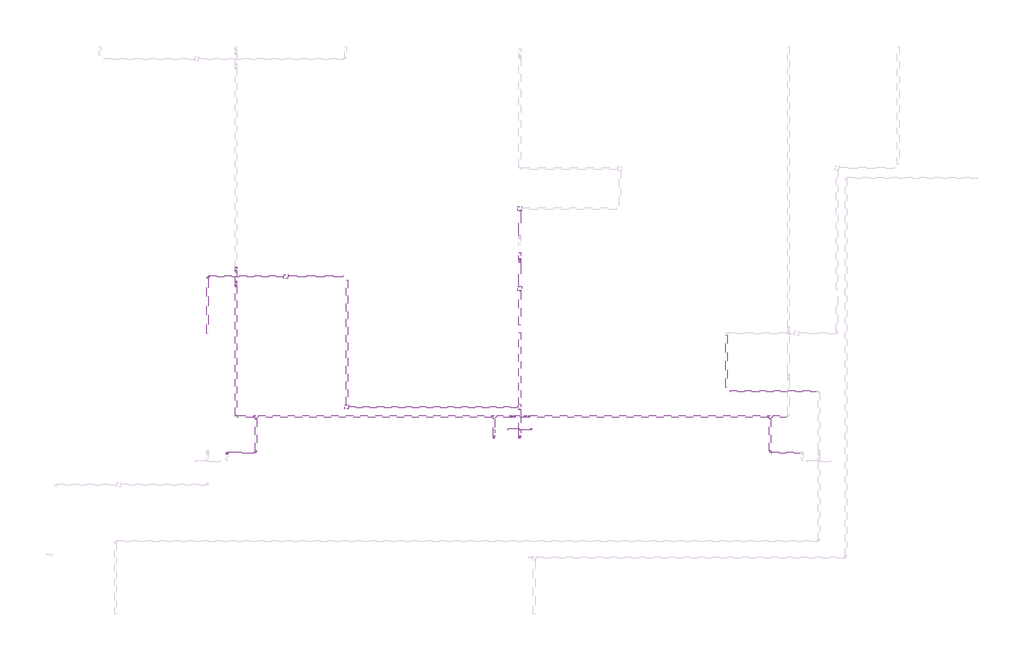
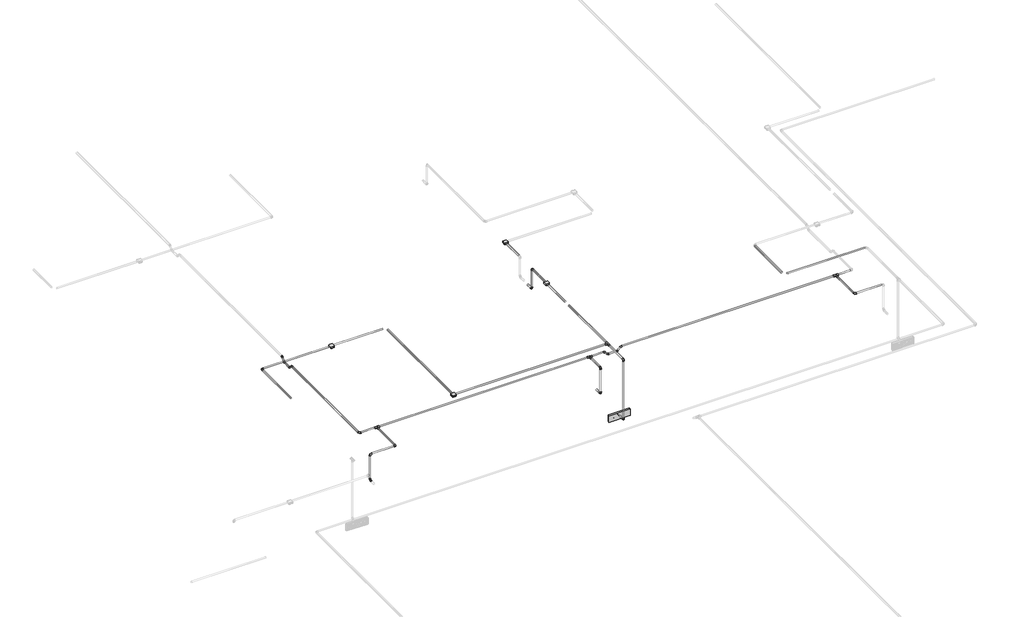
# One storey, part 11 of 40: 36 cable carrier segments, 24 cable carrier fittings, 5 alarms.
"""IFC4 building model written with IfcOpenShell, lengths in millimetres."""

from ifc_helpers import new_model, si_unit, point, frame, frame_2d, origin, place, context, project, spatial, circle_curve, trimmed, segment, composite_curve, outline, extrude, transform, mapped, element, save
from components import alarm_4b7e8fd8, alarm_a2247946, cable_carrier_fitting_69f1a801, cable_carrier_fitting_8122f9af, cable_carrier_fitting_06b5819c, cable_carrier_fitting_8fd13dfc

model = new_model("IFC4")

# Units and contexts
model_context = context("Model", 3, world=origin())
ifc_project = project(units=[si_unit("LENGTHUNIT", "METRE", prefix="MILLI")], contexts=[model_context])

# Site, building, storey
site = spatial("IfcSite", under=ifc_project)
building = spatial("IfcBuilding", under=site)
storey = spatial("IfcBuildingStorey", under=building, Name="1 этаж", Elevation=0.0)

# Alarms
placement = place(None, origin())
alarm_shape = alarm_4b7e8fd8(model_context)
element("IfcAlarm", 1, ObjectType="RBZ_Оповещатель_Световой_Рубеж_ОПОП1-R3(грань) : ОПОП 1-R3 \"Выход\"", at=placement, inside=storey, context=model_context, shape_type="MappedRepresentation", body=[
    mapped(alarm_shape, transform((12667.6759979, -7115.3629895, 2300.0), x_axis=(-1.0, 0.0, 0.0), y_axis=(0.0, 0.0, 1.0), z_axis=(0.0, 1.0, 0.0))),
])
alarm_2_shape = alarm_a2247946(model_context)
element("IfcAlarm", 2, ObjectType="RBZ_ИзоляторШлейфа_Рубеж_ИЗ-1_прот.R3(плоскость) : ИЗ-1 прот.R3", at=placement, inside=storey, context=model_context, shape_type="MappedRepresentation", body=[
    mapped(alarm_2_shape, transform((9747.6759979, -5195.3629895, 3200.0394564), x_axis=(1.0, 0.0, 0.0), y_axis=(0.0, 1.0, 0.0), z_axis=(0.0, 0.0, 1.0))),
])
element("IfcAlarm", 3, ObjectType="RBZ_ИзоляторШлейфа_Рубеж_ИЗ-1_прот.R3(плоскость) : ИЗ-1 прот.R3", at=placement, inside=storey, context=model_context, shape_type="MappedRepresentation", body=[
    mapped(alarm_2_shape, transform((10507.6759979, -6827.8629895, 3200.0394564), x_axis=(1.0, 0.0, 0.0), y_axis=(0.0, 1.0, 0.0), z_axis=(0.0, 0.0, 1.0))),
])
element("IfcAlarm", 4, ObjectType="RBZ_ИзоляторШлейфа_Рубеж_ИЗ-1_прот.R3(плоскость) : ИЗ-1 прот.R3", at=placement, inside=storey, context=model_context, shape_type="MappedRepresentation", body=[
    mapped(alarm_2_shape, transform((12667.6759979, -5347.8629895, 3200.05), x_axis=(1.0, 0.0, 0.0), y_axis=(0.0, 1.0, 0.0), z_axis=(0.0, 0.0, 1.0))),
])
element("IfcAlarm", 5, ObjectType="RBZ_ИзоляторШлейфа_Рубеж_ИЗ-1_прот.R3(плоскость) : ИЗ-1 прот.R3", at=placement, inside=storey, context=model_context, shape_type="MappedRepresentation", body=[
    mapped(alarm_2_shape, transform((12667.6759979, -4347.8629895, 3200.7725545), x_axis=(1.0, 0.0, 0.0), y_axis=(0.0, 1.0, 0.0), z_axis=(0.0, 0.0, 1.0))),
])

# Cable carrier fittings
cable_carrier_fitting_shape = cable_carrier_fitting_69f1a801(model_context)
element("IfcCableCarrierFitting", 6, ObjectType="ADSK_Поворот_Минимальный размер : Неспецифицируемый", at=placement, inside=storey, context=model_context, shape_type="MappedRepresentation", body=[
    mapped(cable_carrier_fitting_shape, transform((8767.6759751, -5195.3629895, 3189.2546578), x_axis=(-0.9999999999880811, 0.0, 4.882407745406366e-06), y_axis=(-2.0036442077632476e-10, -0.99999999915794, -4.103803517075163e-05), z_axis=(4.882407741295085e-06, -4.103803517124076e-05, 0.999999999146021))),
])
element("IfcCableCarrierFitting", 7, ObjectType="ADSK_Поворот_Минимальный размер : Неспецифицируемый", at=placement, inside=storey, context=model_context, shape_type="MappedRepresentation", body=[
    mapped(cable_carrier_fitting_shape, transform((12667.6759979, -4991.5627951, 2891.5753772), x_axis=(0.0, -1.0, 0.0), y_axis=(0.0, 0.0, 1.0), z_axis=(-1.0, 0.0, 0.0))),
])
element("IfcCableCarrierFitting", 8, ObjectType="ADSK_Поворот_Минимальный размер : Неспецифицируемый", at=placement, inside=storey, context=model_context, shape_type="MappedRepresentation", body=[
    mapped(cable_carrier_fitting_shape, transform((9012.6759979, -7398.1631839, 2797.4861504), x_axis=(0.0, 1.0, 0.0), y_axis=(0.0, 0.0, 1.0), z_axis=(1.0, 0.0, 0.0))),
])
element("IfcCableCarrierFitting", 9, ObjectType="ADSK_Поворот_Минимальный размер : Неспецифицируемый", at=placement, inside=storey, context=model_context, shape_type="MappedRepresentation", body=[
    mapped(cable_carrier_fitting_shape, transform((12347.6759979, -7212.5627951, 2797.4861504), x_axis=(0.0, -1.0, 0.0), y_axis=(0.0, 0.0, 1.0), z_axis=(-1.0, 0.0, 0.0))),
])
element("IfcCableCarrierFitting", 10, ObjectType="ADSK_Поворот_Минимальный размер : Неспецифицируемый", at=placement, inside=storey, context=model_context, shape_type="MappedRepresentation", body=[
    mapped(cable_carrier_fitting_shape, transform((12347.6759979, -7212.5627951, 3180.0), x_axis=(0.0, 0.0, 1.0), y_axis=(0.0, 1.0, 0.0), z_axis=(-1.0, 0.0, 0.0))),
])
element("IfcCableCarrierFitting", 11, ObjectType="ADSK_Поворот_Минимальный размер : Неспецифицируемый", at=placement, inside=storey, context=model_context, shape_type="MappedRepresentation", body=[
    mapped(cable_carrier_fitting_shape, transform((12667.6759979, -7212.5627951, 2300.0), x_axis=(0.0, -1.0, 0.0), y_axis=(0.0, 0.0, 1.0), z_axis=(-1.0, 0.0, 0.0))),
])
element("IfcCableCarrierFitting", 12, ObjectType="ADSK_Поворот_Минимальный размер : Неспецифицируемый", at=placement, inside=storey, context=model_context, shape_type="MappedRepresentation", body=[
    mapped(cable_carrier_fitting_shape, transform((12667.6759979, -7212.5627951, 3189.3), x_axis=(0.0, 0.0, 1.0), y_axis=(0.0, 1.0, 0.0), z_axis=(-1.0, 0.0, 0.0))),
])
element("IfcCableCarrierFitting", 13, ObjectType="ADSK_Поворот_Минимальный размер : Неспецифицируемый", at=placement, inside=storey, context=model_context, shape_type="MappedRepresentation", body=[
    mapped(cable_carrier_fitting_shape, transform((9012.6759979, -7398.1631839, 3180.0), x_axis=(0.0, 0.0, 1.0), y_axis=(1.0, 0.0, 0.0), z_axis=(0.0, 1.0, 0.0))),
])
element("IfcCableCarrierFitting", 14, ObjectType="ADSK_Поворот_Минимальный размер : Неспецифицируемый", at=placement, inside=storey, context=model_context, shape_type="MappedRepresentation", body=[
    mapped(cable_carrier_fitting_shape, transform((9372.6759979, -7398.1631839, 3180.0), x_axis=(1.0, 0.0, 0.0), y_axis=(0.0, 1.0, 0.0), z_axis=(0.0, 0.0, 1.0))),
])
element("IfcCableCarrierFitting", 15, ObjectType="ADSK_Поворот_Минимальный размер : Неспецифицируемый", at=placement, inside=storey, context=model_context, shape_type="MappedRepresentation", body=[
    mapped(cable_carrier_fitting_shape, transform((9122.6759979, -6945.3629895, 3180.0), x_axis=(0.0, -1.0, 0.0), y_axis=(1.0, 0.0, 0.0), z_axis=(0.0, 0.0, 1.0))),
])
element("IfcCableCarrierFitting", 16, ObjectType="ADSK_Поворот_Минимальный размер : Неспецифицируемый", at=placement, inside=storey, context=model_context, shape_type="MappedRepresentation", body=[
    mapped(cable_carrier_fitting_shape, transform((15793.5927175, -7398.1631839, 3180.0), x_axis=(0.0, -1.0, 0.0), y_axis=(1.0, 0.0, 0.0), z_axis=(0.0, 0.0, 1.0))),
])
cable_carrier_fitting_2_shape = cable_carrier_fitting_8122f9af(model_context)
element("IfcCableCarrierFitting", 17, ObjectType="ADSK_Поворот_Минимальный размер : Неспецифицируемый", at=placement, inside=storey, context=model_context, shape_type="MappedRepresentation", body=[
    mapped(cable_carrier_fitting_2_shape, transform((12784.2482691, -6945.3629895, 3180.0), x_axis=(-1.0, 0.0, 0.0), y_axis=(0.0, 0.0, -1.0), z_axis=(0.0, -1.0, 0.0))),
])
element("IfcCableCarrierFitting", 18, ObjectType="ADSK_Поворот_Минимальный размер : Неспецифицируемый", at=placement, inside=storey, context=model_context, shape_type="MappedRepresentation", body=[
    mapped(cable_carrier_fitting_2_shape, transform((12734.2482691, -6945.3629895, 3130.0), x_axis=(-0.7071067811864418, 0.0, -0.7071067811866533), y_axis=(-0.7071067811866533, 0.0, 0.7071067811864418), z_axis=(0.0, 1.0, 0.0))),
])
element("IfcCableCarrierFitting", 19, ObjectType="ADSK_Поворот_Минимальный размер : Неспецифицируемый", at=placement, inside=storey, context=model_context, shape_type="MappedRepresentation", body=[
    mapped(cable_carrier_fitting_2_shape, transform((12601.1037266, -6945.3629895, 3130.0), x_axis=(-1.0, 0.0, 0.0), y_axis=(0.0, 0.0, 1.0), z_axis=(0.0, 1.0, 0.0))),
])
element("IfcCableCarrierFitting", 20, ObjectType="ADSK_Поворот_Минимальный размер : Неспецифицируемый", at=placement, inside=storey, context=model_context, shape_type="MappedRepresentation", body=[
    mapped(cable_carrier_fitting_2_shape, transform((12551.1037266, -6945.3629895, 3180.0), x_axis=(-0.7071067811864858, 0.0, 0.7071067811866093), y_axis=(-0.7071067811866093, 0.0, -0.7071067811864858), z_axis=(0.0, -1.0, 0.0))),
])
element("IfcCableCarrierFitting", 21, ObjectType="ADSK_Поворот_Минимальный размер : Неспецифицируемый", at=placement, inside=storey, context=model_context, shape_type="MappedRepresentation", body=[
    mapped(cable_carrier_fitting_2_shape, transform((9122.6759979, -5261.9352607, 3130.0), x_axis=(0.0, 0.7071067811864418, -0.7071067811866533), y_axis=(0.0, 0.7071067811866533, 0.7071067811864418), z_axis=(1.0, 0.0, 0.0))),
])
element("IfcCableCarrierFitting", 22, ObjectType="ADSK_Поворот_Минимальный размер : Неспецифицируемый", at=placement, inside=storey, context=model_context, shape_type="MappedRepresentation", body=[
    mapped(cable_carrier_fitting_2_shape, transform((9122.6759979, -5128.7907182, 3130.0), x_axis=(0.0, 1.0, 0.0), y_axis=(0.0, 0.0, 1.0), z_axis=(1.0, 0.0, 0.0))),
])
element("IfcCableCarrierFitting", 23, ObjectType="ADSK_Поворот_Минимальный размер : Неспецифицируемый", at=placement, inside=storey, context=model_context, shape_type="MappedRepresentation", body=[
    mapped(cable_carrier_fitting_2_shape, transform((9122.6759979, -5078.7907182, 3180.0), x_axis=(0.0, 0.7071067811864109, 0.7071067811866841), y_axis=(0.0, 0.7071067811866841, -0.7071067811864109), z_axis=(-1.0, 0.0, 0.0))),
])
element("IfcCableCarrierFitting", 24, ObjectType="ADSK_Поворот_Минимальный размер : Неспецифицируемый", at=placement, inside=storey, context=model_context, shape_type="MappedRepresentation", body=[
    mapped(cable_carrier_fitting_2_shape, transform((9122.6759979, -5311.9352607, 3180.0), x_axis=(0.0, -0.7071067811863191, 0.7071067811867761), y_axis=(0.0, -0.7071067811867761, -0.7071067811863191), z_axis=(1.0, 0.0, 0.0))),
])
cable_carrier_fitting_3_shape = cable_carrier_fitting_06b5819c(model_context)
element("IfcCableCarrierFitting", 25, ObjectType="ADSK_Поворот_Минимальный размер : Неспецифицируемый", at=placement, inside=storey, context=model_context, shape_type="MappedRepresentation", body=[
    mapped(cable_carrier_fitting_3_shape, transform((12667.6759979, -4991.5627951, 3189.2825737), x_axis=(0.0, 0.0, 1.0), y_axis=(0.0, -1.0, 0.0), z_axis=(1.0, 0.0, 0.0))),
])
cable_carrier_fitting_4_shape = cable_carrier_fitting_8fd13dfc(model_context)
element("IfcCableCarrierFitting", 26, ObjectType="ADSK_Тройник : ПВХ", at=placement, inside=storey, context=model_context, shape_type="MappedRepresentation", body=[
    mapped(cable_carrier_fitting_4_shape, transform((12667.6759979, -6827.8629895, 3189.3), x_axis=(0.0, -1.0, 0.0), y_axis=(0.9999999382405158, 0.0, 0.0003514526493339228), z_axis=(-0.0003514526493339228, 0.0, 0.9999999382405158))),
])
element("IfcCableCarrierFitting", 27, ObjectType="ADSK_Тройник : ПВХ", at=placement, inside=storey, context=model_context, shape_type="MappedRepresentation", body=[
    mapped(cable_carrier_fitting_4_shape, transform((12347.6759979, -6945.3629895, 3180.0), x_axis=(1.0, 0.0, 0.0), y_axis=(0.0, 1.0, 0.0), z_axis=(0.0, 0.0, 1.0))),
])
element("IfcCableCarrierFitting", 28, ObjectType="ADSK_Тройник : ПВХ", at=placement, inside=storey, context=model_context, shape_type="MappedRepresentation", body=[
    mapped(cable_carrier_fitting_4_shape, transform((9372.6759979, -6945.3629895, 3180.0), x_axis=(1.0, 0.0, 0.0), y_axis=(0.0, 1.0, 0.0), z_axis=(0.0, 0.0, 1.0))),
])
element("IfcCableCarrierFitting", 29, ObjectType="ADSK_Тройник : ПВХ", at=placement, inside=storey, context=model_context, shape_type="MappedRepresentation", body=[
    mapped(cable_carrier_fitting_4_shape, transform((15793.5927175, -6945.3629895, 3180.0), x_axis=(1.0, 0.0, 0.0), y_axis=(0.0, 1.0, 0.0), z_axis=(0.0, 0.0, 1.0))),
])

# Cable carrier segments
element("IfcCableCarrierSegment", 30, ObjectType="Гофрированная труба", at=placement, inside=storey, context=model_context, shape_type="SweptSolid", body=[
    extrude(outline(composite_curve([segment(trimmed(circle_curve(frame_2d((3189.2894564, 10507.6759979)), 10.0), [point((3189.2894564, 10517.6759979))], [point((3199.2894564, 10507.6759979))], False, "CARTESIAN"), True, "CONTINUOUS"), segment(trimmed(circle_curve(frame_2d((3189.2894564, 10507.6759979)), 10.0), [point((3199.2894564, 10507.6759979))], [point((3189.2894564, 10497.6759979))], False, "CARTESIAN"), True, "CONTINUOUS"), segment(trimmed(circle_curve(frame_2d((3189.2894564, 10507.6759979)), 10.0), [point((3189.2894564, 10497.6759979))], [point((3179.2894564, 10507.6759979))], False, "CARTESIAN"), True, "CONTINUOUS"), segment(trimmed(circle_curve(frame_2d((3189.2894564, 10507.6759979)), 10.0), [point((3179.2894564, 10507.6759979))], [point((3189.2894564, 10517.6759979))], False, "CARTESIAN"), True, "CONTINUOUS")], self_intersect=False)), frame((0.0, -6801.8629895, 0.0), z_axis=(0.0, 1.0, 0.0), x_axis=(0.0, 0.0, 1.0)), (0.0, 0.0, 1.0), 1560.0),
])
element("IfcCableCarrierSegment", 31, ObjectType="Гофрированная труба", at=placement, inside=storey, context=model_context, shape_type="SweptSolid", body=[
    extrude(outline(composite_curve([segment(trimmed(circle_curve(frame_2d((-5195.3629895, 3189.2894564)), 10.0), [point((-5205.3629895, 3189.2894564))], [point((-5195.3629895, 3199.2894564))], False, "CARTESIAN"), True, "CONTINUOUS"), segment(trimmed(circle_curve(frame_2d((-5195.3629895, 3189.2894564)), 10.0), [point((-5195.3629895, 3199.2894564))], [point((-5185.3629895, 3189.2894564))], False, "CARTESIAN"), True, "CONTINUOUS"), segment(trimmed(circle_curve(frame_2d((-5195.3629895, 3189.2894564)), 10.0), [point((-5185.3629895, 3189.2894564))], [point((-5195.3629895, 3179.2894564))], False, "CARTESIAN"), True, "CONTINUOUS"), segment(trimmed(circle_curve(frame_2d((-5195.3629895, 3189.2894564)), 10.0), [point((-5195.3629895, 3179.2894564))], [point((-5205.3629895, 3189.2894564))], False, "CARTESIAN"), True, "CONTINUOUS")], self_intersect=False)), frame((9773.6759979, 0.0, 0.0), z_axis=(1.0, 0.0, 0.0), x_axis=(0.0, 1.0, 0.0)), (0.0, 0.0, 1.0), 687.5),
])
element("IfcCableCarrierSegment", 32, ObjectType="Гофрированная труба", at=placement, inside=storey, context=model_context, shape_type="SweptSolid", body=[
    extrude(outline(composite_curve([segment(trimmed(circle_curve(frame_2d((0.0, -10.0)), 10.0), [point((-10.0, -10.0))], [point((0.0, 0.0))], False, "CARTESIAN"), True, "CONTINUOUS"), segment(trimmed(circle_curve(frame_2d((0.0, -10.0)), 10.0), [point((0.0, 0.0))], [point((10.0, -10.0))], False, "CARTESIAN"), True, "CONTINUOUS"), segment(trimmed(circle_curve(frame_2d((0.0, -10.0)), 10.0), [point((10.0, -10.0))], [point((0.0, -20.0))], False, "CARTESIAN"), True, "CONTINUOUS"), segment(trimmed(circle_curve(frame_2d((0.0, -10.0)), 10.0), [point((0.0, -20.0))], [point((-10.0, -10.0))], False, "CARTESIAN"), True, "CONTINUOUS")], self_intersect=False)), frame((9721.6759491, -5195.3629895, 3179.2894564), z_axis=(-0.9999999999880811, 0.0, 4.882407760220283e-06), x_axis=(0.0, 1.0, 0.0)), (0.0, 0.0, 1.0), 933.0000228),
])
element("IfcCableCarrierSegment", 33, ObjectType="Гофрированная труба", at=placement, inside=storey, context=model_context, shape_type="SweptSolid", body=[
    extrude(outline(composite_curve([segment(trimmed(circle_curve(frame_2d((3189.253796, 8767.6759751)), 10.0), [point((3189.2537472, 8777.6759751))], [point((3199.253796, 8767.6760239))], False, "CARTESIAN"), True, "CONTINUOUS"), segment(trimmed(circle_curve(frame_2d((3189.253796, 8767.6759751)), 10.0), [point((3199.253796, 8767.6760239))], [point((3189.2538448, 8757.6759751))], False, "CARTESIAN"), True, "CONTINUOUS"), segment(trimmed(circle_curve(frame_2d((3189.253796, 8767.6759751)), 10.0), [point((3189.2538448, 8757.6759751))], [point((3179.253796, 8767.6759262))], False, "CARTESIAN"), True, "CONTINUOUS"), segment(trimmed(circle_curve(frame_2d((3189.253796, 8767.6759751)), 10.0), [point((3179.253796, 8767.6759262))], [point((3189.2537472, 8777.6759751))], False, "CARTESIAN"), True, "CONTINUOUS")], self_intersect=False)), frame((0.0, -5908.8629895, 0.0), z_axis=(0.0, 1.0, 0.0), x_axis=(0.0, 0.0, 1.0)), (0.0, 0.0, 1.0), 692.5),
])
element("IfcCableCarrierSegment", 34, ObjectType="Гофрированная труба", at=placement, inside=storey, context=model_context, shape_type="SweptSolid", body=[
    extrude(outline(composite_curve([segment(trimmed(circle_curve(frame_2d((0.0, -10.0)), 10.0), [point((-10.0, -10.0))], [point((0.0, 0.0))], False, "CARTESIAN"), True, "CONTINUOUS"), segment(trimmed(circle_curve(frame_2d((0.0, -10.0)), 10.0), [point((0.0, 0.0))], [point((10.0, -10.0))], False, "CARTESIAN"), True, "CONTINUOUS"), segment(trimmed(circle_curve(frame_2d((0.0, -10.0)), 10.0), [point((10.0, -10.0))], [point((0.0, -20.0))], False, "CARTESIAN"), True, "CONTINUOUS"), segment(trimmed(circle_curve(frame_2d((0.0, -10.0)), 10.0), [point((0.0, -20.0))], [point((-10.0, -10.0))], False, "CARTESIAN"), True, "CONTINUOUS")], self_intersect=False)), frame((15294.1762265, -6629.1951839, 3179.99952), z_axis=(0.9999999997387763, 0.0, 2.2857109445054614e-05), x_axis=(0.0, -1.0, 0.0)), (0.0, 0.0, 1.0), 1088.7499992),
])
element("IfcCableCarrierSegment", 35, ObjectType="Гофрированная труба", at=placement, inside=storey, context=model_context, shape_type="SweptSolid", body=[
    extrude(outline(composite_curve([segment(trimmed(circle_curve(frame_2d((3189.99952, 15247.6759979)), 10.0), [point((3189.99952, 15237.6759979))], [point((3179.99952, 15247.6759979))], False, "CARTESIAN"), True, "CONTINUOUS"), segment(trimmed(circle_curve(frame_2d((3189.99952, 15247.6759979)), 10.0), [point((3179.99952, 15247.6759979))], [point((3189.99952, 15257.6759979))], False, "CARTESIAN"), True, "CONTINUOUS"), segment(trimmed(circle_curve(frame_2d((3189.99952, 15247.6759979)), 10.0), [point((3189.99952, 15257.6759979))], [point((3199.99952, 15247.6759979))], False, "CARTESIAN"), True, "CONTINUOUS"), segment(trimmed(circle_curve(frame_2d((3189.99952, 15247.6759979)), 10.0), [point((3199.99952, 15247.6759979))], [point((3189.99952, 15237.6759979))], False, "CARTESIAN"), True, "CONTINUOUS")], self_intersect=False)), frame((0.0, -6582.6951839, 0.0), z_axis=(0.0, 1.0, 0.0), x_axis=(0.0, 0.0, 1.0)), (0.0, 0.0, 1.0), 656.3321944),
])
element("IfcCableCarrierSegment", 36, ObjectType="Гофрированная труба", at=placement, inside=storey, context=model_context, shape_type="SweptSolid", body=[
    extrude(outline(composite_curve([segment(trimmed(circle_curve(frame_2d((-6827.8629895, 3189.2894564)), 10.0), [point((-6837.8629895, 3189.2894564))], [point((-6827.8629895, 3199.2894564))], False, "CARTESIAN"), True, "CONTINUOUS"), segment(trimmed(circle_curve(frame_2d((-6827.8629895, 3189.2894564)), 10.0), [point((-6827.8629895, 3199.2894564))], [point((-6817.8629895, 3189.2894564))], False, "CARTESIAN"), True, "CONTINUOUS"), segment(trimmed(circle_curve(frame_2d((-6827.8629895, 3189.2894564)), 10.0), [point((-6817.8629895, 3189.2894564))], [point((-6827.8629895, 3179.2894564))], False, "CARTESIAN"), True, "CONTINUOUS"), segment(trimmed(circle_curve(frame_2d((-6827.8629895, 3189.2894564)), 10.0), [point((-6827.8629895, 3179.2894564))], [point((-6837.8629895, 3189.2894564))], False, "CARTESIAN"), True, "CONTINUOUS")], self_intersect=False)), frame((10533.6759979, 0.0, 0.0), z_axis=(1.0, 0.0, 0.0), x_axis=(0.0, 1.0, 0.0)), (0.0, 0.0, 1.0), 2104.0000019),
])
element("IfcCableCarrierSegment", 37, ObjectType="Гофрированная труба", at=placement, inside=storey, context=model_context, shape_type="SweptSolid", body=[
    extrude(outline(composite_curve([segment(trimmed(circle_curve(frame_2d((3189.3, 12667.6759979)), 10.0), [point((3189.3035145, 12677.6759973))], [point((3199.2999994, 12667.6724834))], False, "CARTESIAN"), True, "CONTINUOUS"), segment(trimmed(circle_curve(frame_2d((3189.3, 12667.6759979)), 10.0), [point((3199.2999994, 12667.6724834))], [point((3189.2964855, 12657.6759985))], False, "CARTESIAN"), True, "CONTINUOUS"), segment(trimmed(circle_curve(frame_2d((3189.3, 12667.6759979)), 10.0), [point((3189.2964855, 12657.6759985))], [point((3179.3000006, 12667.6795124))], False, "CARTESIAN"), True, "CONTINUOUS"), segment(trimmed(circle_curve(frame_2d((3189.3, 12667.6759979)), 10.0), [point((3179.3000006, 12667.6795124))], [point((3189.3035145, 12677.6759973))], False, "CARTESIAN"), True, "CONTINUOUS")], self_intersect=False)), frame((0.0, -6797.8629895, 0.0), z_axis=(0.0, 1.0, 0.0), x_axis=(0.0, 0.0, 1.0)), (0.0, 0.0, 1.0), 903.0),
])
element("IfcCableCarrierSegment", 38, ObjectType="Гофрированная труба", at=placement, inside=storey, context=model_context, shape_type="SweptSolid", body=[
    extrude(outline(composite_curve([segment(trimmed(circle_curve(frame_2d((3189.3, 12667.6759979)), 10.0), [point((3189.3, 12657.6759979))], [point((3179.3, 12667.6759979))], False, "CARTESIAN"), True, "CONTINUOUS"), segment(trimmed(circle_curve(frame_2d((3189.3, 12667.6759979)), 10.0), [point((3179.3, 12667.6759979))], [point((3189.3, 12677.6759979))], False, "CARTESIAN"), True, "CONTINUOUS"), segment(trimmed(circle_curve(frame_2d((3189.3, 12667.6759979)), 10.0), [point((3189.3, 12677.6759979))], [point((3199.3, 12667.6759979))], False, "CARTESIAN"), True, "CONTINUOUS"), segment(trimmed(circle_curve(frame_2d((3189.3, 12667.6759979)), 10.0), [point((3199.3, 12667.6759979))], [point((3189.3, 12657.6759979))], False, "CARTESIAN"), True, "CONTINUOUS")], self_intersect=False)), frame((0.0, -5801.8629895, 0.0), z_axis=(0.0, 1.0, 0.0), x_axis=(0.0, 0.0, 1.0)), (0.0, 0.0, 1.0), 428.0),
])
element("IfcCableCarrierSegment", 39, ObjectType="Гофрированная труба", at=placement, inside=storey, context=model_context, shape_type="SweptSolid", body=[
    extrude(outline(composite_curve([segment(trimmed(circle_curve(frame_2d((0.0, 10.0)), 10.0), [point((0.0, 0.0))], [point((-10.0, 10.0))], False, "CARTESIAN"), True, "CONTINUOUS"), segment(trimmed(circle_curve(frame_2d((0.0, 10.0)), 10.0), [point((-10.0, 10.0))], [point((0.0, 20.0))], False, "CARTESIAN"), True, "CONTINUOUS"), segment(trimmed(circle_curve(frame_2d((0.0, 10.0)), 10.0), [point((0.0, 20.0))], [point((10.0, 10.0))], False, "CARTESIAN"), True, "CONTINUOUS"), segment(trimmed(circle_curve(frame_2d((0.0, 10.0)), 10.0), [point((10.0, 10.0))], [point((0.0, 0.0))], False, "CARTESIAN"), True, "CONTINUOUS")], self_intersect=False)), frame((12657.6759979, -5012.5617399, 3189.2836816), z_axis=(0.0, -0.9999999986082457, 5.275896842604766e-05), x_axis=(0.0, -5.275896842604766e-05, -0.9999999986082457)), (0.0, 0.0, 1.0), 309.30125),
])
element("IfcCableCarrierSegment", 40, ObjectType="Гофрированная труба", at=placement, inside=storey, context=model_context, shape_type="SweptSolid", body=[
    extrude(outline(composite_curve([segment(trimmed(circle_curve(frame_2d((2891.5753772, 12667.6759979)), 10.0), [point((2891.5753772, 12657.6759979))], [point((2881.5753772, 12667.6759979))], False, "CARTESIAN"), True, "CONTINUOUS"), segment(trimmed(circle_curve(frame_2d((2891.5753772, 12667.6759979)), 10.0), [point((2881.5753772, 12667.6759979))], [point((2891.5753772, 12677.6759979))], False, "CARTESIAN"), True, "CONTINUOUS"), segment(trimmed(circle_curve(frame_2d((2891.5753772, 12667.6759979)), 10.0), [point((2891.5753772, 12677.6759979))], [point((2901.5753772, 12667.6759979))], False, "CARTESIAN"), True, "CONTINUOUS"), segment(trimmed(circle_curve(frame_2d((2891.5753772, 12667.6759979)), 10.0), [point((2901.5753772, 12667.6759979))], [point((2891.5753772, 12657.6759979))], False, "CARTESIAN"), True, "CONTINUOUS")], self_intersect=False)), frame((0.0, -4970.5627951, 0.0), z_axis=(0.0, 1.0, 0.0), x_axis=(0.0, 0.0, 1.0)), (0.0, 0.0, 1.0), 76.1998056),
])
element("IfcCableCarrierSegment", 41, ObjectType="Гофрированная труба", at=placement, inside=storey, context=model_context, shape_type="SweptSolid", body=[
    extrude(outline(composite_curve([segment(trimmed(circle_curve(frame_2d((12667.6759979, -4991.5627951)), 10.0), [point((12657.6759979, -4991.5627951))], [point((12667.6759979, -4981.5627951))], False, "CARTESIAN"), True, "CONTINUOUS"), segment(trimmed(circle_curve(frame_2d((12667.6759979, -4991.5627951)), 10.0), [point((12667.6759979, -4981.5627951))], [point((12677.6759979, -4991.5627951))], False, "CARTESIAN"), True, "CONTINUOUS"), segment(trimmed(circle_curve(frame_2d((12667.6759979, -4991.5627951)), 10.0), [point((12677.6759979, -4991.5627951))], [point((12667.6759979, -5001.5627951))], False, "CARTESIAN"), True, "CONTINUOUS"), segment(trimmed(circle_curve(frame_2d((12667.6759979, -4991.5627951)), 10.0), [point((12667.6759979, -5001.5627951))], [point((12657.6759979, -4991.5627951))], False, "CARTESIAN"), True, "CONTINUOUS")], self_intersect=False)), frame((0.0, 0.0, 2912.5753772), z_axis=(0.0, 0.0, 1.0), x_axis=(1.0, 0.0, 0.0)), (0.0, 0.0, 1.0), 255.7082517),
])
element("IfcCableCarrierSegment", 42, ObjectType="Гофрированная труба", at=placement, inside=storey, context=model_context, shape_type="SweptSolid", body=[
    extrude(outline(composite_curve([segment(trimmed(circle_curve(frame_2d((0.0, -10.0)), 10.0), [point((0.0, 0.0))], [point((10.0, -10.0))], False, "CARTESIAN"), True, "CONTINUOUS"), segment(trimmed(circle_curve(frame_2d((0.0, -10.0)), 10.0), [point((10.0, -10.0))], [point((0.0, -20.0))], False, "CARTESIAN"), True, "CONTINUOUS"), segment(trimmed(circle_curve(frame_2d((0.0, -10.0)), 10.0), [point((0.0, -20.0))], [point((-10.0, -10.0))], False, "CARTESIAN"), True, "CONTINUOUS"), segment(trimmed(circle_curve(frame_2d((0.0, -10.0)), 10.0), [point((-10.0, -10.0))], [point((0.0, 0.0))], False, "CARTESIAN"), True, "CONTINUOUS")], self_intersect=False)), frame((12657.6759979, -4683.1646423, 3189.9999999), z_axis=(0.0, 0.9999999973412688, 7.292093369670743e-05), x_axis=(0.0, 7.292093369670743e-05, -0.9999999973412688)), (0.0, 0.0, 1.0), 309.3016536),
])
element("IfcCableCarrierSegment", 43, ObjectType="Гофрированная труба", at=placement, inside=storey, context=model_context, shape_type="SweptSolid", body=[
    extrude(outline(composite_curve([segment(trimmed(circle_curve(frame_2d((-6945.3629895, 3180.0)), 10.0), [point((-6935.3629895, 3180.0))], [point((-6945.3629895, 3170.0))], False, "CARTESIAN"), True, "CONTINUOUS"), segment(trimmed(circle_curve(frame_2d((-6945.3629895, 3180.0)), 10.0), [point((-6945.3629895, 3170.0))], [point((-6955.3629895, 3180.0))], False, "CARTESIAN"), True, "CONTINUOUS"), segment(trimmed(circle_curve(frame_2d((-6945.3629895, 3180.0)), 10.0), [point((-6955.3629895, 3180.0))], [point((-6945.3629895, 3190.0))], False, "CARTESIAN"), True, "CONTINUOUS"), segment(trimmed(circle_curve(frame_2d((-6945.3629895, 3180.0)), 10.0), [point((-6945.3629895, 3190.0))], [point((-6935.3629895, 3180.0))], False, "CARTESIAN"), True, "CONTINUOUS")], self_intersect=False)), frame((9143.6759979, 0.0, 0.0), z_axis=(1.0, 0.0, 0.0), x_axis=(0.0, 1.0, 0.0)), (0.0, 0.0, 1.0), 199.0),
])
element("IfcCableCarrierSegment", 44, ObjectType="Гофрированная труба", at=placement, inside=storey, context=model_context, shape_type="SweptSolid", body=[
    extrude(outline(composite_curve([segment(trimmed(circle_curve(frame_2d((3130.0, 9122.6759979)), 10.0), [point((3130.0, 9132.6759979))], [point((3140.0, 9122.6759979))], False, "CARTESIAN"), True, "CONTINUOUS"), segment(trimmed(circle_curve(frame_2d((3130.0, 9122.6759979)), 10.0), [point((3140.0, 9122.6759979))], [point((3130.0, 9112.6759979))], False, "CARTESIAN"), True, "CONTINUOUS"), segment(trimmed(circle_curve(frame_2d((3130.0, 9122.6759979)), 10.0), [point((3130.0, 9112.6759979))], [point((3120.0, 9122.6759979))], False, "CARTESIAN"), True, "CONTINUOUS"), segment(trimmed(circle_curve(frame_2d((3130.0, 9122.6759979)), 10.0), [point((3120.0, 9122.6759979))], [point((3130.0, 9132.6759979))], False, "CARTESIAN"), True, "CONTINUOUS")], self_intersect=False)), frame((0.0, -5252.6509895, 0.0), z_axis=(0.0, 1.0, 0.0), x_axis=(0.0, 0.0, 1.0)), (0.0, 0.0, 1.0), 114.576),
])
element("IfcCableCarrierSegment", 45, ObjectType="Гофрированная труба", at=placement, inside=storey, context=model_context, shape_type="SweptSolid", body=[
    extrude(outline(composite_curve([segment(trimmed(circle_curve(frame_2d((9012.6759979, -7398.1631839)), 10.0), [point((9002.6759979, -7398.1631839))], [point((9012.6759979, -7388.1631839))], False, "CARTESIAN"), True, "CONTINUOUS"), segment(trimmed(circle_curve(frame_2d((9012.6759979, -7398.1631839)), 10.0), [point((9012.6759979, -7388.1631839))], [point((9022.6759979, -7398.1631839))], False, "CARTESIAN"), True, "CONTINUOUS"), segment(trimmed(circle_curve(frame_2d((9012.6759979, -7398.1631839)), 10.0), [point((9022.6759979, -7398.1631839))], [point((9012.6759979, -7408.1631839))], False, "CARTESIAN"), True, "CONTINUOUS"), segment(trimmed(circle_curve(frame_2d((9012.6759979, -7398.1631839)), 10.0), [point((9012.6759979, -7408.1631839))], [point((9002.6759979, -7398.1631839))], False, "CARTESIAN"), True, "CONTINUOUS")], self_intersect=False)), frame((0.0, 0.0, 2818.4861504), z_axis=(0.0, 0.0, 1.0), x_axis=(1.0, 0.0, 0.0)), (0.0, 0.0, 1.0), 340.5138496),
])
element("IfcCableCarrierSegment", 46, ObjectType="Гофрированная труба", at=placement, inside=storey, context=model_context, shape_type="SweptSolid", body=[
    extrude(outline(composite_curve([segment(trimmed(circle_curve(frame_2d((3180.0, 9122.6759979)), 10.0), [point((3180.0, 9132.6759979))], [point((3190.0, 9122.6759979))], False, "CARTESIAN"), True, "CONTINUOUS"), segment(trimmed(circle_curve(frame_2d((3180.0, 9122.6759979)), 10.0), [point((3190.0, 9122.6759979))], [point((3180.0, 9112.6759979))], False, "CARTESIAN"), True, "CONTINUOUS"), segment(trimmed(circle_curve(frame_2d((3180.0, 9122.6759979)), 10.0), [point((3180.0, 9112.6759979))], [point((3170.0, 9122.6759979))], False, "CARTESIAN"), True, "CONTINUOUS"), segment(trimmed(circle_curve(frame_2d((3180.0, 9122.6759979)), 10.0), [point((3170.0, 9122.6759979))], [point((3180.0, 9132.6759979))], False, "CARTESIAN"), True, "CONTINUOUS")], self_intersect=False)), frame((0.0, -6924.3629895, 0.0), z_axis=(0.0, 1.0, 0.0), x_axis=(0.0, 0.0, 1.0)), (0.0, 0.0, 1.0), 1603.1434575),
])
element("IfcCableCarrierSegment", 47, ObjectType="Гофрированная труба", at=placement, inside=storey, context=model_context, shape_type="SweptSolid", body=[
    extrude(outline(composite_curve([segment(trimmed(circle_curve(frame_2d((3180.0, 12347.6759979)), 10.0), [point((3180.0, 12337.6759979))], [point((3170.0, 12347.6759979))], False, "CARTESIAN"), True, "CONTINUOUS"), segment(trimmed(circle_curve(frame_2d((3180.0, 12347.6759979)), 10.0), [point((3170.0, 12347.6759979))], [point((3180.0, 12357.6759979))], False, "CARTESIAN"), True, "CONTINUOUS"), segment(trimmed(circle_curve(frame_2d((3180.0, 12347.6759979)), 10.0), [point((3180.0, 12357.6759979))], [point((3190.0, 12347.6759979))], False, "CARTESIAN"), True, "CONTINUOUS"), segment(trimmed(circle_curve(frame_2d((3180.0, 12347.6759979)), 10.0), [point((3190.0, 12347.6759979))], [point((3180.0, 12337.6759979))], False, "CARTESIAN"), True, "CONTINUOUS")], self_intersect=False)), frame((0.0, -7191.5627951, 0.0), z_axis=(0.0, 1.0, 0.0), x_axis=(0.0, 0.0, 1.0)), (0.0, 0.0, 1.0), 216.1998056),
])
element("IfcCableCarrierSegment", 48, ObjectType="Гофрированная труба", at=placement, inside=storey, context=model_context, shape_type="SweptSolid", body=[
    extrude(outline(composite_curve([segment(trimmed(circle_curve(frame_2d((2797.4861504, 12347.6759979)), 10.0), [point((2797.4861504, 12337.6759979))], [point((2787.4861504, 12347.6759979))], False, "CARTESIAN"), True, "CONTINUOUS"), segment(trimmed(circle_curve(frame_2d((2797.4861504, 12347.6759979)), 10.0), [point((2787.4861504, 12347.6759979))], [point((2797.4861504, 12357.6759979))], False, "CARTESIAN"), True, "CONTINUOUS"), segment(trimmed(circle_curve(frame_2d((2797.4861504, 12347.6759979)), 10.0), [point((2797.4861504, 12357.6759979))], [point((2807.4861504, 12347.6759979))], False, "CARTESIAN"), True, "CONTINUOUS"), segment(trimmed(circle_curve(frame_2d((2797.4861504, 12347.6759979)), 10.0), [point((2807.4861504, 12347.6759979))], [point((2797.4861504, 12337.6759979))], False, "CARTESIAN"), True, "CONTINUOUS")], self_intersect=False)), frame((0.0, -7191.5627951, 0.0), z_axis=(0.0, 1.0, 0.0), x_axis=(0.0, 0.0, 1.0)), (0.0, 0.0, 1.0), 76.1998056),
])
element("IfcCableCarrierSegment", 49, ObjectType="Гофрированная труба", at=placement, inside=storey, context=model_context, shape_type="SweptSolid", body=[
    extrude(outline(composite_curve([segment(trimmed(circle_curve(frame_2d((12347.6759979, -7212.5627951)), 10.0), [point((12337.6759979, -7212.5627951))], [point((12347.6759979, -7202.5627951))], False, "CARTESIAN"), True, "CONTINUOUS"), segment(trimmed(circle_curve(frame_2d((12347.6759979, -7212.5627951)), 10.0), [point((12347.6759979, -7202.5627951))], [point((12357.6759979, -7212.5627951))], False, "CARTESIAN"), True, "CONTINUOUS"), segment(trimmed(circle_curve(frame_2d((12347.6759979, -7212.5627951)), 10.0), [point((12357.6759979, -7212.5627951))], [point((12347.6759979, -7222.5627951))], False, "CARTESIAN"), True, "CONTINUOUS"), segment(trimmed(circle_curve(frame_2d((12347.6759979, -7212.5627951)), 10.0), [point((12347.6759979, -7222.5627951))], [point((12337.6759979, -7212.5627951))], False, "CARTESIAN"), True, "CONTINUOUS")], self_intersect=False)), frame((0.0, 0.0, 2818.4861504), z_axis=(0.0, 0.0, 1.0), x_axis=(1.0, 0.0, 0.0)), (0.0, 0.0, 1.0), 340.5138496),
])
element("IfcCableCarrierSegment", 50, ObjectType="Гофрированная труба", at=placement, inside=storey, context=model_context, shape_type="SweptSolid", body=[
    extrude(outline(composite_curve([segment(trimmed(circle_curve(frame_2d((-6945.3629895, 3130.0)), 10.0), [point((-6935.3629895, 3130.0))], [point((-6945.3629895, 3120.0))], False, "CARTESIAN"), True, "CONTINUOUS"), segment(trimmed(circle_curve(frame_2d((-6945.3629895, 3130.0)), 10.0), [point((-6945.3629895, 3120.0))], [point((-6955.3629895, 3130.0))], False, "CARTESIAN"), True, "CONTINUOUS"), segment(trimmed(circle_curve(frame_2d((-6945.3629895, 3130.0)), 10.0), [point((-6955.3629895, 3130.0))], [point((-6945.3629895, 3140.0))], False, "CARTESIAN"), True, "CONTINUOUS"), segment(trimmed(circle_curve(frame_2d((-6945.3629895, 3130.0)), 10.0), [point((-6945.3629895, 3140.0))], [point((-6935.3629895, 3130.0))], False, "CARTESIAN"), True, "CONTINUOUS")], self_intersect=False)), frame((12610.3879979, 0.0, 0.0), z_axis=(1.0, 0.0, 0.0), x_axis=(0.0, 1.0, 0.0)), (0.0, 0.0, 1.0), 114.576),
])
element("IfcCableCarrierSegment", 51, ObjectType="Гофрированная труба", at=placement, inside=storey, context=model_context, shape_type="SweptSolid", body=[
    extrude(outline(composite_curve([segment(trimmed(circle_curve(frame_2d((-6945.3629895, 3180.0)), 10.0), [point((-6935.3629895, 3180.0))], [point((-6945.3629895, 3170.0))], False, "CARTESIAN"), True, "CONTINUOUS"), segment(trimmed(circle_curve(frame_2d((-6945.3629895, 3180.0)), 10.0), [point((-6945.3629895, 3170.0))], [point((-6955.3629895, 3180.0))], False, "CARTESIAN"), True, "CONTINUOUS"), segment(trimmed(circle_curve(frame_2d((-6945.3629895, 3180.0)), 10.0), [point((-6955.3629895, 3180.0))], [point((-6945.3629895, 3190.0))], False, "CARTESIAN"), True, "CONTINUOUS"), segment(trimmed(circle_curve(frame_2d((-6945.3629895, 3180.0)), 10.0), [point((-6945.3629895, 3190.0))], [point((-6935.3629895, 3180.0))], False, "CARTESIAN"), True, "CONTINUOUS")], self_intersect=False)), frame((12793.5325404, 0.0, 0.0), z_axis=(1.0, 0.0, 0.0), x_axis=(0.0, 1.0, 0.0)), (0.0, 0.0, 1.0), 2970.0601771),
])
element("IfcCableCarrierSegment", 52, ObjectType="Гофрированная труба", at=placement, inside=storey, context=model_context, shape_type="SweptSolid", body=[
    extrude(outline(composite_curve([segment(trimmed(circle_curve(frame_2d((0.0, -10.0)), 10.0), [point((0.0, 0.0))], [point((10.0000001, -10.0))], False, "CARTESIAN"), True, "CONTINUOUS"), segment(trimmed(circle_curve(frame_2d((0.0, -10.0)), 10.0), [point((10.0000001, -10.0))], [point((0.0, -20.0))], False, "CARTESIAN"), True, "CONTINUOUS"), segment(trimmed(circle_curve(frame_2d((0.0, -10.0)), 10.0), [point((0.0, -20.0))], [point((-10.0, -10.0))], False, "CARTESIAN"), True, "CONTINUOUS"), segment(trimmed(circle_curve(frame_2d((0.0, -10.0)), 10.0), [point((-10.0, -10.0))], [point((0.0, 0.0))], False, "CARTESIAN"), True, "CONTINUOUS")], self_intersect=False)), frame((12740.8132403, -6935.3629895, 3136.5649712), z_axis=(0.7071067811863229, 0.0, 0.7071067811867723), x_axis=(0.7071067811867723, 0.0, -0.7071067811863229)), (0.0, 0.0, 1.0), 52.1421356),
])
element("IfcCableCarrierSegment", 53, ObjectType="Гофрированная труба", at=placement, inside=storey, context=model_context, shape_type="SweptSolid", body=[
    extrude(outline(composite_curve([segment(trimmed(circle_curve(frame_2d((-6945.3629895, 3180.0)), 10.0), [point((-6935.3629895, 3180.0))], [point((-6945.3629895, 3170.0))], False, "CARTESIAN"), True, "CONTINUOUS"), segment(trimmed(circle_curve(frame_2d((-6945.3629895, 3180.0)), 10.0), [point((-6945.3629895, 3170.0))], [point((-6955.3629895, 3180.0))], False, "CARTESIAN"), True, "CONTINUOUS"), segment(trimmed(circle_curve(frame_2d((-6945.3629895, 3180.0)), 10.0), [point((-6955.3629895, 3180.0))], [point((-6945.3629895, 3190.0))], False, "CARTESIAN"), True, "CONTINUOUS"), segment(trimmed(circle_curve(frame_2d((-6945.3629895, 3180.0)), 10.0), [point((-6945.3629895, 3190.0))], [point((-6935.3629895, 3180.0))], False, "CARTESIAN"), True, "CONTINUOUS")], self_intersect=False)), frame((12377.6759979, 0.0, 0.0), z_axis=(1.0, 0.0, 0.0), x_axis=(0.0, 1.0, 0.0)), (0.0, 0.0, 1.0), 164.1434575),
])
element("IfcCableCarrierSegment", 54, ObjectType="Гофрированная труба", at=placement, inside=storey, context=model_context, shape_type="SweptSolid", body=[
    extrude(outline(composite_curve([segment(trimmed(circle_curve(frame_2d((0.0, 10.0)), 10.0), [point((0.0, 20.0))], [point((10.0, 10.0))], False, "CARTESIAN"), True, "CONTINUOUS"), segment(trimmed(circle_curve(frame_2d((0.0, 10.0)), 10.0), [point((10.0, 10.0))], [point((0.0, 0.0))], False, "CARTESIAN"), True, "CONTINUOUS"), segment(trimmed(circle_curve(frame_2d((0.0, 10.0)), 10.0), [point((0.0, 0.0))], [point((-10.0000001, 10.0))], False, "CARTESIAN"), True, "CONTINUOUS"), segment(trimmed(circle_curve(frame_2d((0.0, 10.0)), 10.0), [point((-10.0000001, 10.0))], [point((0.0, 20.0))], False, "CARTESIAN"), True, "CONTINUOUS")], self_intersect=False)), frame((12594.5387555, -6955.3629895, 3136.5649712), z_axis=(-0.7071067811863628, 0.0, 0.7071067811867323), x_axis=(0.7071067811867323, 0.0, 0.7071067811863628)), (0.0, 0.0, 1.0), 52.1421356),
])
element("IfcCableCarrierSegment", 55, ObjectType="Гофрированная труба", at=placement, inside=storey, context=model_context, shape_type="SweptSolid", body=[
    extrude(outline(composite_curve([segment(trimmed(circle_curve(frame_2d((0.0, -10.0)), 10.0), [point((10.0, -10.0))], [point((0.0, -20.0))], False, "CARTESIAN"), True, "CONTINUOUS"), segment(trimmed(circle_curve(frame_2d((0.0, -10.0)), 10.0), [point((0.0, -20.0))], [point((-10.0, -10.0))], False, "CARTESIAN"), True, "CONTINUOUS"), segment(trimmed(circle_curve(frame_2d((0.0, -10.0)), 10.0), [point((-10.0, -10.0))], [point((0.0, 0.0))], False, "CARTESIAN"), True, "CONTINUOUS"), segment(trimmed(circle_curve(frame_2d((0.0, -10.0)), 10.0), [point((0.0, 0.0))], [point((10.0, -10.0))], False, "CARTESIAN"), True, "CONTINUOUS")], self_intersect=False)), frame((9122.6759979, -5261.4291641, 3143.636039), z_axis=(0.0, -0.7071067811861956, 0.7071067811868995), x_axis=(1.0, 0.0, 0.0)), (0.0, 0.0, 1.0), 52.1421356),
])
element("IfcCableCarrierSegment", 56, ObjectType="Гофрированная труба", at=placement, inside=storey, context=model_context, shape_type="SweptSolid", body=[
    extrude(outline(composite_curve([segment(trimmed(circle_curve(frame_2d((0.0, 10.0)), 10.0), [point((10.0, 10.0))], [point((0.0, 0.0))], False, "CARTESIAN"), True, "CONTINUOUS"), segment(trimmed(circle_curve(frame_2d((0.0, 10.0)), 10.0), [point((0.0, 0.0))], [point((-10.0, 10.0))], False, "CARTESIAN"), True, "CONTINUOUS"), segment(trimmed(circle_curve(frame_2d((0.0, 10.0)), 10.0), [point((-10.0, 10.0))], [point((0.0, 20.0))], False, "CARTESIAN"), True, "CONTINUOUS"), segment(trimmed(circle_curve(frame_2d((0.0, 10.0)), 10.0), [point((0.0, 20.0))], [point((10.0, 10.0))], False, "CARTESIAN"), True, "CONTINUOUS")], self_intersect=False)), frame((9122.6759979, -5129.2968149, 3143.636039), z_axis=(0.0, 0.7071067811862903, 0.7071067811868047), x_axis=(1.0, 0.0, 0.0)), (0.0, 0.0, 1.0), 52.1421356),
])
element("IfcCableCarrierSegment", 57, ObjectType="Гофрированная труба", at=placement, inside=storey, context=model_context, shape_type="SweptSolid", body=[
    extrude(outline(composite_curve([segment(trimmed(circle_curve(frame_2d((3189.3, 12667.6759979)), 10.0), [point((3189.3, 12657.6759979))], [point((3179.3, 12667.6759979))], False, "CARTESIAN"), True, "CONTINUOUS"), segment(trimmed(circle_curve(frame_2d((3189.3, 12667.6759979)), 10.0), [point((3179.3, 12667.6759979))], [point((3189.3, 12677.6759979))], False, "CARTESIAN"), True, "CONTINUOUS"), segment(trimmed(circle_curve(frame_2d((3189.3, 12667.6759979)), 10.0), [point((3189.3, 12677.6759979))], [point((3199.3, 12667.6759979))], False, "CARTESIAN"), True, "CONTINUOUS"), segment(trimmed(circle_curve(frame_2d((3189.3, 12667.6759979)), 10.0), [point((3199.3, 12667.6759979))], [point((3189.3, 12657.6759979))], False, "CARTESIAN"), True, "CONTINUOUS")], self_intersect=False)), frame((0.0, -7191.5627951, 0.0), z_axis=(0.0, 1.0, 0.0), x_axis=(0.0, 0.0, 1.0)), (0.0, 0.0, 1.0), 333.6998056),
])
element("IfcCableCarrierSegment", 58, ObjectType="Гофрированная труба", at=placement, inside=storey, context=model_context, shape_type="SweptSolid", body=[
    extrude(outline(composite_curve([segment(trimmed(circle_curve(frame_2d((2300.0, 12667.6759979)), 10.0), [point((2300.0, 12657.6759979))], [point((2290.0, 12667.6759979))], False, "CARTESIAN"), True, "CONTINUOUS"), segment(trimmed(circle_curve(frame_2d((2300.0, 12667.6759979)), 10.0), [point((2290.0, 12667.6759979))], [point((2300.0, 12677.6759979))], False, "CARTESIAN"), True, "CONTINUOUS"), segment(trimmed(circle_curve(frame_2d((2300.0, 12667.6759979)), 10.0), [point((2300.0, 12677.6759979))], [point((2310.0, 12667.6759979))], False, "CARTESIAN"), True, "CONTINUOUS"), segment(trimmed(circle_curve(frame_2d((2300.0, 12667.6759979)), 10.0), [point((2310.0, 12667.6759979))], [point((2300.0, 12657.6759979))], False, "CARTESIAN"), True, "CONTINUOUS")], self_intersect=False)), frame((0.0, -7191.5627951, 0.0), z_axis=(0.0, 1.0, 0.0), x_axis=(0.0, 0.0, 1.0)), (0.0, 0.0, 1.0), 76.1998056),
])
element("IfcCableCarrierSegment", 59, ObjectType="Гофрированная труба", at=placement, inside=storey, context=model_context, shape_type="SweptSolid", body=[
    extrude(outline(composite_curve([segment(trimmed(circle_curve(frame_2d((12667.6759979, -7212.5627951)), 10.0), [point((12657.6759979, -7212.5627951))], [point((12667.6759979, -7202.5627951))], False, "CARTESIAN"), True, "CONTINUOUS"), segment(trimmed(circle_curve(frame_2d((12667.6759979, -7212.5627951)), 10.0), [point((12667.6759979, -7202.5627951))], [point((12677.6759979, -7212.5627951))], False, "CARTESIAN"), True, "CONTINUOUS"), segment(trimmed(circle_curve(frame_2d((12667.6759979, -7212.5627951)), 10.0), [point((12677.6759979, -7212.5627951))], [point((12667.6759979, -7222.5627951))], False, "CARTESIAN"), True, "CONTINUOUS"), segment(trimmed(circle_curve(frame_2d((12667.6759979, -7212.5627951)), 10.0), [point((12667.6759979, -7222.5627951))], [point((12657.6759979, -7212.5627951))], False, "CARTESIAN"), True, "CONTINUOUS")], self_intersect=False)), frame((0.0, 0.0, 2321.0), z_axis=(0.0, 0.0, 1.0), x_axis=(1.0, 0.0, 0.0)), (0.0, 0.0, 1.0), 847.3),
])
element("IfcCableCarrierSegment", 60, ObjectType="Гофрированная труба", at=placement, inside=storey, context=model_context, shape_type="SweptSolid", body=[
    extrude(outline(composite_curve([segment(trimmed(circle_curve(frame_2d((-7398.1631839, 3180.0)), 10.0), [point((-7408.1631839, 3180.0))], [point((-7398.1631839, 3190.0))], False, "CARTESIAN"), True, "CONTINUOUS"), segment(trimmed(circle_curve(frame_2d((-7398.1631839, 3180.0)), 10.0), [point((-7398.1631839, 3190.0))], [point((-7388.1631839, 3180.0))], False, "CARTESIAN"), True, "CONTINUOUS"), segment(trimmed(circle_curve(frame_2d((-7398.1631839, 3180.0)), 10.0), [point((-7388.1631839, 3180.0))], [point((-7398.1631839, 3170.0))], False, "CARTESIAN"), True, "CONTINUOUS"), segment(trimmed(circle_curve(frame_2d((-7398.1631839, 3180.0)), 10.0), [point((-7398.1631839, 3170.0))], [point((-7408.1631839, 3180.0))], False, "CARTESIAN"), True, "CONTINUOUS")], self_intersect=False)), frame((9033.6759979, 0.0, 0.0), z_axis=(1.0, 0.0, 0.0), x_axis=(0.0, 1.0, 0.0)), (0.0, 0.0, 1.0), 318.0),
])
element("IfcCableCarrierSegment", 61, ObjectType="Гофрированная труба", at=placement, inside=storey, context=model_context, shape_type="SweptSolid", body=[
    extrude(outline(composite_curve([segment(trimmed(circle_curve(frame_2d((3180.0, 9372.6759979)), 10.0), [point((3180.0, 9362.6759979))], [point((3170.0, 9372.6759979))], False, "CARTESIAN"), True, "CONTINUOUS"), segment(trimmed(circle_curve(frame_2d((3180.0, 9372.6759979)), 10.0), [point((3170.0, 9372.6759979))], [point((3180.0, 9382.6759979))], False, "CARTESIAN"), True, "CONTINUOUS"), segment(trimmed(circle_curve(frame_2d((3180.0, 9372.6759979)), 10.0), [point((3180.0, 9382.6759979))], [point((3190.0, 9372.6759979))], False, "CARTESIAN"), True, "CONTINUOUS"), segment(trimmed(circle_curve(frame_2d((3180.0, 9372.6759979)), 10.0), [point((3190.0, 9372.6759979))], [point((3180.0, 9362.6759979))], False, "CARTESIAN"), True, "CONTINUOUS")], self_intersect=False)), frame((0.0, -7377.1631839, 0.0), z_axis=(0.0, 1.0, 0.0), x_axis=(0.0, 0.0, 1.0)), (0.0, 0.0, 1.0), 401.8001944),
])
element("IfcCableCarrierSegment", 62, ObjectType="Гофрированная труба", at=placement, inside=storey, context=model_context, shape_type="SweptSolid", body=[
    extrude(outline(composite_curve([segment(trimmed(circle_curve(frame_2d((-6945.3629895, 3180.0)), 10.0), [point((-6935.3629895, 3180.0))], [point((-6945.3629895, 3170.0))], False, "CARTESIAN"), True, "CONTINUOUS"), segment(trimmed(circle_curve(frame_2d((-6945.3629895, 3180.0)), 10.0), [point((-6945.3629895, 3170.0))], [point((-6955.3629895, 3180.0))], False, "CARTESIAN"), True, "CONTINUOUS"), segment(trimmed(circle_curve(frame_2d((-6945.3629895, 3180.0)), 10.0), [point((-6955.3629895, 3180.0))], [point((-6945.3629895, 3190.0))], False, "CARTESIAN"), True, "CONTINUOUS"), segment(trimmed(circle_curve(frame_2d((-6945.3629895, 3180.0)), 10.0), [point((-6945.3629895, 3190.0))], [point((-6935.3629895, 3180.0))], False, "CARTESIAN"), True, "CONTINUOUS")], self_intersect=False)), frame((9402.6759979, 0.0, 0.0), z_axis=(1.0, 0.0, 0.0), x_axis=(0.0, 1.0, 0.0)), (0.0, 0.0, 1.0), 2915.0),
])
element("IfcCableCarrierSegment", 63, ObjectType="Гофрированная труба", at=placement, inside=storey, context=model_context, shape_type="SweptSolid", body=[
    extrude(outline(composite_curve([segment(trimmed(circle_curve(frame_2d((3180.0, 15793.5927175)), 10.0), [point((3180.0, 15783.5927175))], [point((3170.0, 15793.5927175))], False, "CARTESIAN"), True, "CONTINUOUS"), segment(trimmed(circle_curve(frame_2d((3180.0, 15793.5927175)), 10.0), [point((3170.0, 15793.5927175))], [point((3180.0, 15803.5927175))], False, "CARTESIAN"), True, "CONTINUOUS"), segment(trimmed(circle_curve(frame_2d((3180.0, 15793.5927175)), 10.0), [point((3180.0, 15803.5927175))], [point((3190.0, 15793.5927175))], False, "CARTESIAN"), True, "CONTINUOUS"), segment(trimmed(circle_curve(frame_2d((3180.0, 15793.5927175)), 10.0), [point((3190.0, 15793.5927175))], [point((3180.0, 15783.5927175))], False, "CARTESIAN"), True, "CONTINUOUS")], self_intersect=False)), frame((0.0, -7377.1631839, 0.0), z_axis=(0.0, 1.0, 0.0), x_axis=(0.0, 0.0, 1.0)), (0.0, 0.0, 1.0), 401.8001944),
])
element("IfcCableCarrierSegment", 64, ObjectType="Гофрированная труба", at=placement, inside=storey, context=model_context, shape_type="SweptSolid", body=[
    extrude(outline(composite_curve([segment(trimmed(circle_curve(frame_2d((-6945.3629895, 3180.0)), 10.0), [point((-6935.3629895, 3180.0))], [point((-6945.3629895, 3170.0))], False, "CARTESIAN"), True, "CONTINUOUS"), segment(trimmed(circle_curve(frame_2d((-6945.3629895, 3180.0)), 10.0), [point((-6945.3629895, 3170.0))], [point((-6955.3629895, 3180.0))], False, "CARTESIAN"), True, "CONTINUOUS"), segment(trimmed(circle_curve(frame_2d((-6945.3629895, 3180.0)), 10.0), [point((-6955.3629895, 3180.0))], [point((-6945.3629895, 3190.0))], False, "CARTESIAN"), True, "CONTINUOUS"), segment(trimmed(circle_curve(frame_2d((-6945.3629895, 3180.0)), 10.0), [point((-6945.3629895, 3190.0))], [point((-6935.3629895, 3180.0))], False, "CARTESIAN"), True, "CONTINUOUS")], self_intersect=False)), frame((15823.5927175, 0.0, 0.0), z_axis=(1.0, 0.0, 0.0), x_axis=(0.0, 1.0, 0.0)), (0.0, 0.0, 1.0), 178.0832804),
])
element("IfcCableCarrierSegment", 65, ObjectType="Гофрированная труба", at=placement, inside=storey, context=model_context, shape_type="SweptSolid", body=[
    extrude(outline(composite_curve([segment(trimmed(circle_curve(frame_2d((-7398.1631839, 3180.0)), 10.0), [point((-7388.1631839, 3180.0))], [point((-7398.1631839, 3170.0))], False, "CARTESIAN"), True, "CONTINUOUS"), segment(trimmed(circle_curve(frame_2d((-7398.1631839, 3180.0)), 10.0), [point((-7398.1631839, 3170.0))], [point((-7408.1631839, 3180.0))], False, "CARTESIAN"), True, "CONTINUOUS"), segment(trimmed(circle_curve(frame_2d((-7398.1631839, 3180.0)), 10.0), [point((-7408.1631839, 3180.0))], [point((-7398.1631839, 3190.0))], False, "CARTESIAN"), True, "CONTINUOUS"), segment(trimmed(circle_curve(frame_2d((-7398.1631839, 3180.0)), 10.0), [point((-7398.1631839, 3190.0))], [point((-7388.1631839, 3180.0))], False, "CARTESIAN"), True, "CONTINUOUS")], self_intersect=False)), frame((15814.5927175, 0.0, 0.0), z_axis=(1.0, 0.0, 0.0), x_axis=(0.0, 1.0, 0.0)), (0.0, 0.0, 1.0), 364.3322077),
])

save(model, "model.ifc")
